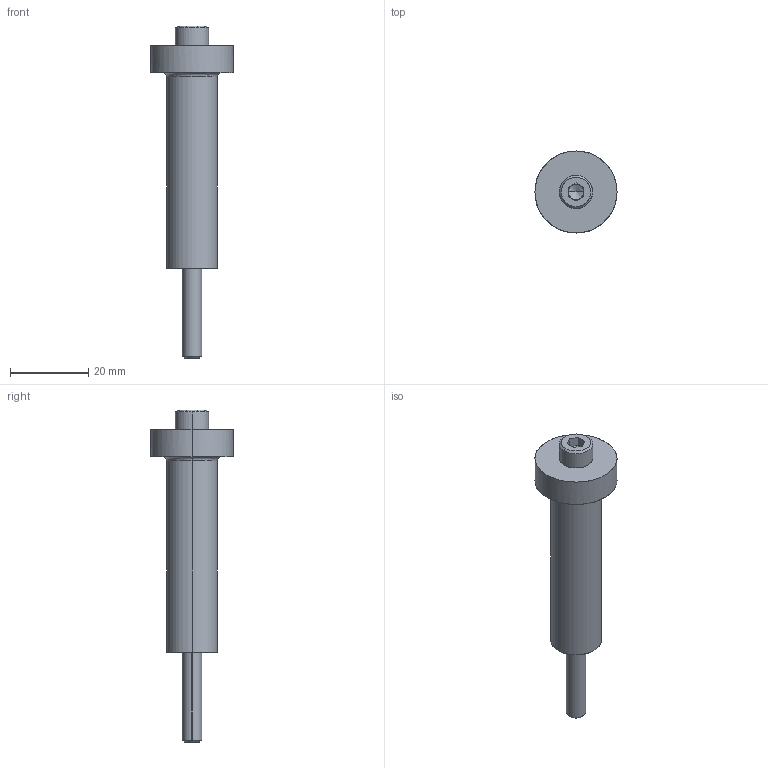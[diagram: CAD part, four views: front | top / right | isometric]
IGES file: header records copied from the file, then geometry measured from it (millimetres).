
Global section: file name: E:\UnigraphicsGraphicData\MISUMI_PRESS-PARTS\IGES\3d_sbwh13-50-80_05179_r00.igs; native system: NX V5.0; preprocessor: UGS NX IGES V5.0; author: MISUMI; date: 20110105.162514; units: millimetre
Bounding box: 21 x 21 x 85 mm (x, y, z)
Surface area: 5646.2 mm2 (no closed solid volume)
Topology: 0 solids, 0 shells, 36 faces, 204 edges, 202 vertices
Faces by surface type: bspline 36
